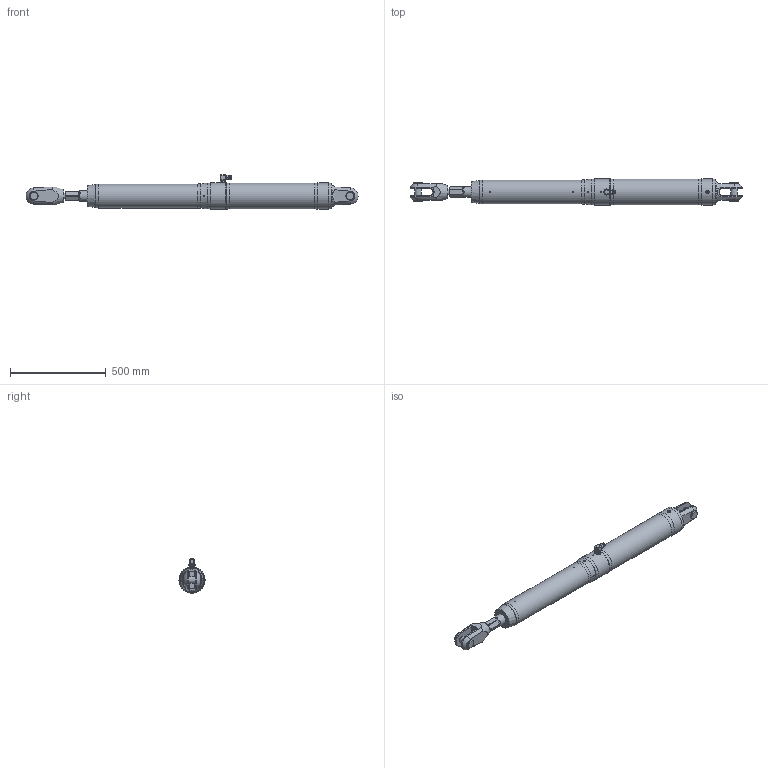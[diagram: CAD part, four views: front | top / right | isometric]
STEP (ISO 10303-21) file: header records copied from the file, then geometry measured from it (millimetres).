
FILE_DESCRIPTION(/* description */ (''),/* implementation_level */ '2;1');
FILE_NAME(/* name */ 'Q:\AA BRAND HYDRAULICS\HYDRAULICS FAMILY DIRECTORY\HYDRAULICS\CYLINDERS\MECHANICAL LOCK RAMS\ALUMINIUM - STAINLESS SINGLE ACTING (-0012 To -0150)\MSA-0091-S0425-NP-71\MSA-0091-S0425-NP-71 (Closed).stp',/* time_stamp */ '2018-04-25T17:08:36+01:00',/* author */ ('Lorena'),/* organization */ (''),/* preprocessor_version */ 'ST-DEVELOPER v17',/* originating_system */ 'Autodesk Inventor 2018',/* authorisation */ '');
FILE_SCHEMA (('AUTOMOTIVE_DESIGN { 1 0 10303 214 3 1 1 }'));
Length unit declared in the file: millimetre
Products named in the file (1): MSA-0091-S0425-NP-71 (Closed)
Bounding box: 1730.08 x 136.4 x 178.3 mm (x, y, z)
Volume: 18663714.1 mm3; surface area: 716908.9 mm2
Topology: 2 solids, 4 shells, 495 faces, 1298 edges, 848 vertices
Faces by surface type: plane 281, cone 123, cylinder 77, torus 6, sphere 4, bspline 4
Full cylindrical faces by diameter (mm): 4 x1, 4.2 x4, 5 x2, 7 x1, 8 x4, 9 x1, 9.9 x1, 10 x2, 11.1 x1, 18.9 x1, 19 x3, 19.11 x1, 19.9 x1, 20 x3, 20.9 x2, 22 x2, 27.8 x3, 30 x1, 34.25 x1, 34.93 x2, 43.663 x2, 55 x2, 56 x2, 59 x1, 125 x1, 133.4 x1, 136.4 x4
Entity records: 16993 total; most frequent: CARTESIAN_POINT 4401, ORIENTED_EDGE 2580, DIRECTION 2514, EDGE_CURVE 1290, AXIS2_PLACEMENT_3D 966, VERTEX_POINT 849, LINE 582, VECTOR 582
